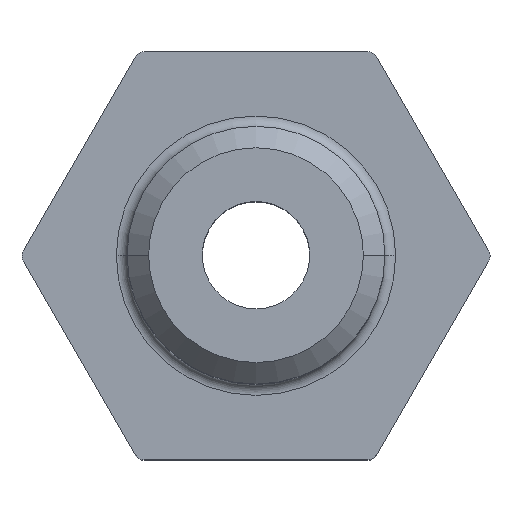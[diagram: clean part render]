
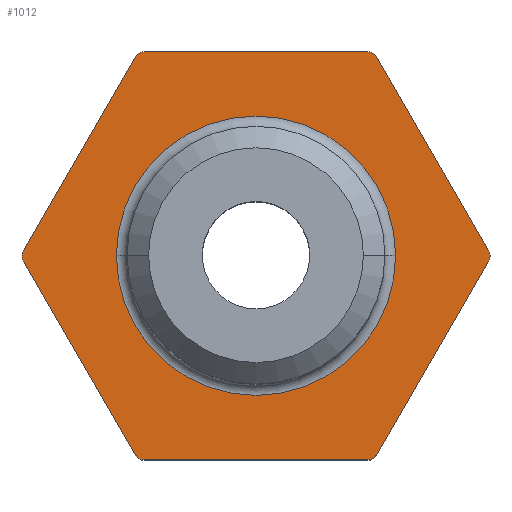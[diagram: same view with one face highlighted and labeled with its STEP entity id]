
A CAD part, top view. The second image highlights one B-rep face of the part: STEP entity #1012.
In plain terms, the highlighted planar face has unit normal (0, 0, 1).
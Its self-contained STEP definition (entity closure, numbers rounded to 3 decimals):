
#9 = DIRECTION ( 'NONE',  ( -0.5, -0.866, 0. ) ) ;
#10 = CARTESIAN_POINT ( 'NONE',  ( 10.825, 0.25, 0. ) ) ;
#13 = EDGE_LOOP ( 'NONE', ( #1297, #1252, #487, #106, #284, #770, #402, #419, #769, #633, #74, #1086, #702 ) ) ;
#28 = CARTESIAN_POINT ( 'NONE',  ( 10.825, -0.25, 0. ) ) ;
#52 = CARTESIAN_POINT ( 'NONE',  ( -6.5, 0., 0. ) ) ;
#74 = ORIENTED_EDGE ( 'NONE', *, *, #242, .T. ) ;
#99 = CARTESIAN_POINT ( 'NONE',  ( 10.392, 0., 0. ) ) ;
#104 = VECTOR ( 'NONE', #171, 1000. ) ;
#106 = ORIENTED_EDGE ( 'NONE', *, *, #184, .T. ) ;
#132 = LINE ( 'NONE', #1291, #964 ) ;
#135 = EDGE_CURVE ( 'NONE', #639, #1007, #385, .T. ) ;
#171 = DIRECTION ( 'NONE',  ( 1., 0., 0. ) ) ;
#184 = EDGE_CURVE ( 'NONE', #500, #1007, #250, .T. ) ;
#189 = VERTEX_POINT ( 'NONE', #223 ) ;
#191 = DIRECTION ( 'NONE',  ( -1., 0., 0. ) ) ;
#201 = AXIS2_PLACEMENT_3D ( 'NONE', #382, #1026, #272 ) ;
#202 = VECTOR ( 'NONE', #330, 1000. ) ;
#205 = DIRECTION ( 'NONE',  ( -0.5, 0.866, 0. ) ) ;
#209 = CIRCLE ( 'NONE', #614, 0.5 ) ;
#211 = DIRECTION ( 'NONE',  ( -1., 0., 0. ) ) ;
#213 = CARTESIAN_POINT ( 'NONE',  ( -5.629, -9.25, 0. ) ) ;
#223 = CARTESIAN_POINT ( 'NONE',  ( -5.196, 9.5, 0. ) ) ;
#231 = AXIS2_PLACEMENT_3D ( 'NONE', #298, #953, #191 ) ;
#238 = VERTEX_POINT ( 'NONE', #10 ) ;
#240 = DIRECTION ( 'NONE',  ( -1., 0., 0. ) ) ;
#242 = EDGE_CURVE ( 'NONE', #883, #678, #209, .T. ) ;
#248 = CARTESIAN_POINT ( 'NONE',  ( 5.485, -9.5, 0. ) ) ;
#250 = CIRCLE ( 'NONE', #388, 0.5 ) ;
#264 = AXIS2_PLACEMENT_3D ( 'NONE', #1366, #1158, #406 ) ;
#272 = DIRECTION ( 'NONE',  ( -1., 0., 0. ) ) ;
#284 = ORIENTED_EDGE ( 'NONE', *, *, #135, .F. ) ;
#296 = DIRECTION ( 'NONE',  ( 0., 0., -1. ) ) ;
#298 = CARTESIAN_POINT ( 'NONE',  ( -5.196, 9., 0. ) ) ;
#302 = EDGE_CURVE ( 'NONE', #189, #678, #398, .T. ) ;
#312 = VECTOR ( 'NONE', #240, 1000. ) ;
#319 = CIRCLE ( 'NONE', #1305, 6.5 ) ;
#330 = DIRECTION ( 'NONE',  ( 0.5, -0.866, 0. ) ) ;
#333 = AXIS2_PLACEMENT_3D ( 'NONE', #1047, #847, #502 ) ;
#337 = VERTEX_POINT ( 'NONE', #834 ) ;
#338 = DIRECTION ( 'NONE',  ( 0., 0., -1. ) ) ;
#362 = ORIENTED_EDGE ( 'NONE', *, *, #1120, .T. ) ;
#382 = CARTESIAN_POINT ( 'NONE',  ( 0., 0., 0. ) ) ;
#385 = LINE ( 'NONE', #248, #312 ) ;
#388 = AXIS2_PLACEMENT_3D ( 'NONE', #1185, #444, #1085 ) ;
#398 = LINE ( 'NONE', #1244, #104 ) ;
#402 = ORIENTED_EDGE ( 'NONE', *, *, #558, .F. ) ;
#406 = DIRECTION ( 'NONE',  ( -1., 0., 0. ) ) ;
#416 = DIRECTION ( 'NONE',  ( 0.5, 0.866, 0. ) ) ;
#419 = ORIENTED_EDGE ( 'NONE', *, *, #496, .T. ) ;
#420 = VERTEX_POINT ( 'NONE', #748 ) ;
#444 = DIRECTION ( 'NONE',  ( 0., 0., 1. ) ) ;
#476 = VERTEX_POINT ( 'NONE', #512 ) ;
#487 = ORIENTED_EDGE ( 'NONE', *, *, #1262, .F. ) ;
#496 = EDGE_CURVE ( 'NONE', #708, #966, #799, .T. ) ;
#498 = FACE_BOUND ( 'NONE', #1250, .T. ) ;
#500 = VERTEX_POINT ( 'NONE', #213 ) ;
#502 = DIRECTION ( 'NONE',  ( -1., 0., 0. ) ) ;
#512 = CARTESIAN_POINT ( 'NONE',  ( -5.629, 9.25, 0. ) ) ;
#533 = CARTESIAN_POINT ( 'NONE',  ( -10.97, 0., 0. ) ) ;
#550 = DIRECTION ( 'NONE',  ( 0., 0., 1. ) ) ;
#558 = EDGE_CURVE ( 'NONE', #708, #337, #132, .T. ) ;
#614 = AXIS2_PLACEMENT_3D ( 'NONE', #757, #1365, #644 ) ;
#633 = ORIENTED_EDGE ( 'NONE', *, *, #1338, .F. ) ;
#634 = EDGE_CURVE ( 'NONE', #420, #712, #1207, .T. ) ;
#635 = CARTESIAN_POINT ( 'NONE',  ( -5.196, -9.5, 0. ) ) ;
#639 = VERTEX_POINT ( 'NONE', #1219 ) ;
#644 = DIRECTION ( 'NONE',  ( -1., 0., 0. ) ) ;
#658 = LINE ( 'NONE', #994, #891 ) ;
#660 = AXIS2_PLACEMENT_3D ( 'NONE', #1172, #550, #1282 ) ;
#662 = EDGE_CURVE ( 'NONE', #639, #337, #1106, .T. ) ;
#678 = VERTEX_POINT ( 'NONE', #1030 ) ;
#702 = ORIENTED_EDGE ( 'NONE', *, *, #985, .T. ) ;
#708 = VERTEX_POINT ( 'NONE', #28 ) ;
#712 = VERTEX_POINT ( 'NONE', #1095 ) ;
#730 = FACE_OUTER_BOUND ( 'NONE', #13, .T. ) ;
#748 = CARTESIAN_POINT ( 'NONE',  ( -10.825, 0.25, 0. ) ) ;
#757 = CARTESIAN_POINT ( 'NONE',  ( 5.196, 9., 0. ) ) ;
#769 = ORIENTED_EDGE ( 'NONE', *, *, #1288, .T. ) ;
#770 = ORIENTED_EDGE ( 'NONE', *, *, #662, .T. ) ;
#799 = CIRCLE ( 'NONE', #660, 0.5 ) ;
#806 = AXIS2_PLACEMENT_3D ( 'NONE', #99, #869, #211 ) ;
#834 = CARTESIAN_POINT ( 'NONE',  ( 5.629, -9.25, 0. ) ) ;
#847 = DIRECTION ( 'NONE',  ( 0., 0., 1. ) ) ;
#861 = CIRCLE ( 'NONE', #806, 0.5 ) ;
#869 = DIRECTION ( 'NONE',  ( 0., 0., 1. ) ) ;
#883 = VERTEX_POINT ( 'NONE', #1374 ) ;
#884 = VECTOR ( 'NONE', #416, 1000. ) ;
#891 = VECTOR ( 'NONE', #205, 1000. ) ;
#893 = AXIS2_PLACEMENT_3D ( 'NONE', #1152, #296, #950 ) ;
#924 = EDGE_CURVE ( 'NONE', #420, #476, #1091, .T. ) ;
#950 = DIRECTION ( 'NONE',  ( -1., 0., 0. ) ) ;
#953 = DIRECTION ( 'NONE',  ( 0., 0., 1. ) ) ;
#956 = CARTESIAN_POINT ( 'NONE',  ( 10.892, 0., 0. ) ) ;
#964 = VECTOR ( 'NONE', #9, 1000. ) ;
#966 = VERTEX_POINT ( 'NONE', #956 ) ;
#985 = EDGE_CURVE ( 'NONE', #189, #476, #1121, .T. ) ;
#994 = CARTESIAN_POINT ( 'NONE',  ( -5.485, -9.5, 0. ) ) ;
#1007 = VERTEX_POINT ( 'NONE', #635 ) ;
#1012 = ADVANCED_FACE ( 'NONE', ( #498, #730 ), #1040, .F. ) ;
#1017 = DIRECTION ( 'NONE',  ( -1., 0., 0. ) ) ;
#1026 = DIRECTION ( 'NONE',  ( 0., 0., -1. ) ) ;
#1030 = CARTESIAN_POINT ( 'NONE',  ( 5.196, 9.5, 0. ) ) ;
#1040 = PLANE ( 'NONE',  #893 ) ;
#1047 = CARTESIAN_POINT ( 'NONE',  ( 5.196, -9., 0. ) ) ;
#1085 = DIRECTION ( 'NONE',  ( -1., 0., 0. ) ) ;
#1086 = ORIENTED_EDGE ( 'NONE', *, *, #302, .F. ) ;
#1089 = ORIENTED_EDGE ( 'NONE', *, *, #1192, .T. ) ;
#1091 = LINE ( 'NONE', #533, #884 ) ;
#1095 = CARTESIAN_POINT ( 'NONE',  ( -10.825, -0.25, 0. ) ) ;
#1106 = CIRCLE ( 'NONE', #333, 0.5 ) ;
#1118 = CARTESIAN_POINT ( 'NONE',  ( 6.5, 0., 0. ) ) ;
#1120 = EDGE_CURVE ( 'NONE', #1259, #1261, #319, .T. ) ;
#1121 = CIRCLE ( 'NONE', #231, 0.5 ) ;
#1152 = CARTESIAN_POINT ( 'NONE',  ( -5.485, 9.5, 0. ) ) ;
#1158 = DIRECTION ( 'NONE',  ( 0., 0., 1. ) ) ;
#1167 = CIRCLE ( 'NONE', #201, 6.5 ) ;
#1172 = CARTESIAN_POINT ( 'NONE',  ( 10.392, 0., 0. ) ) ;
#1176 = CARTESIAN_POINT ( 'NONE',  ( 5.485, 9.5, 0. ) ) ;
#1185 = CARTESIAN_POINT ( 'NONE',  ( -5.196, -9., 0. ) ) ;
#1192 = EDGE_CURVE ( 'NONE', #1261, #1259, #1167, .T. ) ;
#1207 = CIRCLE ( 'NONE', #264, 0.5 ) ;
#1219 = CARTESIAN_POINT ( 'NONE',  ( 5.196, -9.5, 0. ) ) ;
#1244 = CARTESIAN_POINT ( 'NONE',  ( -5.485, 9.5, 0. ) ) ;
#1250 = EDGE_LOOP ( 'NONE', ( #1089, #362 ) ) ;
#1252 = ORIENTED_EDGE ( 'NONE', *, *, #634, .T. ) ;
#1259 = VERTEX_POINT ( 'NONE', #1118 ) ;
#1261 = VERTEX_POINT ( 'NONE', #52 ) ;
#1262 = EDGE_CURVE ( 'NONE', #500, #712, #658, .T. ) ;
#1282 = DIRECTION ( 'NONE',  ( -1., 0., 0. ) ) ;
#1288 = EDGE_CURVE ( 'NONE', #966, #238, #861, .T. ) ;
#1291 = CARTESIAN_POINT ( 'NONE',  ( 10.97, 0., 0. ) ) ;
#1297 = ORIENTED_EDGE ( 'NONE', *, *, #924, .F. ) ;
#1299 = CARTESIAN_POINT ( 'NONE',  ( 0., 0., 0. ) ) ;
#1305 = AXIS2_PLACEMENT_3D ( 'NONE', #1299, #338, #1017 ) ;
#1338 = EDGE_CURVE ( 'NONE', #883, #238, #1343, .T. ) ;
#1343 = LINE ( 'NONE', #1176, #202 ) ;
#1365 = DIRECTION ( 'NONE',  ( 0., 0., 1. ) ) ;
#1366 = CARTESIAN_POINT ( 'NONE',  ( -10.392, 0., 0. ) ) ;
#1374 = CARTESIAN_POINT ( 'NONE',  ( 5.629, 9.25, 0. ) ) ;
